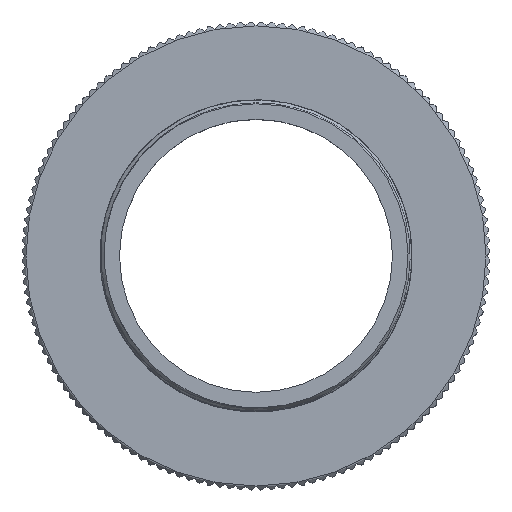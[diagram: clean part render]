
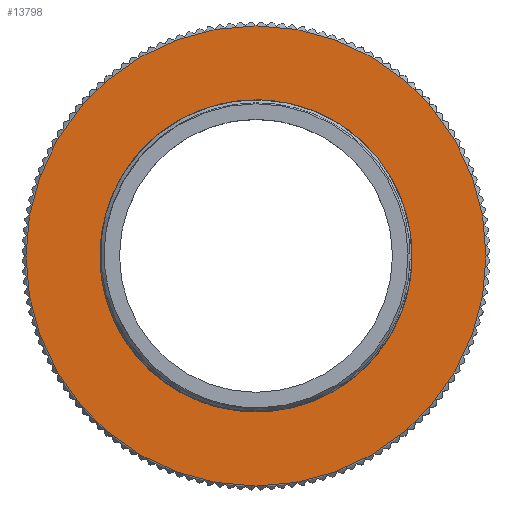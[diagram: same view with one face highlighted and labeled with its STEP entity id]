
A CAD part, top view. The second image highlights one B-rep face of the part: STEP entity #13798.
In plain terms, the highlighted planar face has unit normal (0, 0, 1).
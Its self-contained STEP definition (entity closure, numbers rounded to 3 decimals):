
#6470=CARTESIAN_POINT('',(0.,0.,0.));
#6471=DIRECTION('',(0.,0.,1.));
#6472=DIRECTION('',(0.,-1.,0.));
#6473=AXIS2_PLACEMENT_3D('',#6470,#6471,#6472);
#6475=CARTESIAN_POINT('',(0.,0.,0.));
#6476=DIRECTION('',(0.,0.,1.));
#6477=DIRECTION('',(0.,1.,0.));
#6478=AXIS2_PLACEMENT_3D('',#6475,#6476,#6477);
#6480=CARTESIAN_POINT('',(0.,0.,0.));
#6481=DIRECTION('',(0.,0.,-1.));
#6482=DIRECTION('',(0.,1.,0.));
#6483=AXIS2_PLACEMENT_3D('',#6480,#6481,#6482);
#6485=CARTESIAN_POINT('',(0.,0.,0.));
#6486=DIRECTION('',(0.,0.,-1.));
#6487=DIRECTION('',(0.,-1.,0.));
#6488=AXIS2_PLACEMENT_3D('',#6485,#6486,#6487);
#8637=CARTESIAN_POINT('',(0.,-14.986,0.));
#8638=CARTESIAN_POINT('',(0.,14.986,0.));
#8639=VERTEX_POINT('',#8637);
#8640=VERTEX_POINT('',#8638);
#8649=CARTESIAN_POINT('',(0.,9.906,0.));
#8651=VERTEX_POINT('',#8649);
#8657=CARTESIAN_POINT('',(0.,-9.906,0.));
#8658=VERTEX_POINT('',#8657);
#13783=CARTESIAN_POINT('',(7.62,0.,0.));
#13784=DIRECTION('',(0.,0.,-1.));
#13785=DIRECTION('',(0.,1.,0.));
#13786=AXIS2_PLACEMENT_3D('',#13783,#13784,#13785);
#13787=PLANE('',#13786);
#13788=ORIENTED_EDGE('',*,*,#13431,.F.);
#13789=ORIENTED_EDGE('',*,*,#13047,.F.);
#13790=EDGE_LOOP('',(#13788,#13789));
#13791=FACE_OUTER_BOUND('',#13790,.F.);
#13793=ORIENTED_EDGE('',*,*,#13792,.F.);
#13795=ORIENTED_EDGE('',*,*,#13794,.F.);
#13796=EDGE_LOOP('',(#13793,#13795));
#13797=FACE_BOUND('',#13796,.F.);
#13798=ADVANCED_FACE('',(#13791,#13797),#13787,.F.);
#6474=CIRCLE('',#6473,14.986);
#6479=CIRCLE('',#6478,14.986);
#6484=CIRCLE('',#6483,9.906);
#6489=CIRCLE('',#6488,9.906);
#13047=EDGE_CURVE('',#8640,#8639,#6479,.T.);
#13431=EDGE_CURVE('',#8639,#8640,#6474,.T.);
#13792=EDGE_CURVE('',#8651,#8658,#6484,.T.);
#13794=EDGE_CURVE('',#8658,#8651,#6489,.T.);
